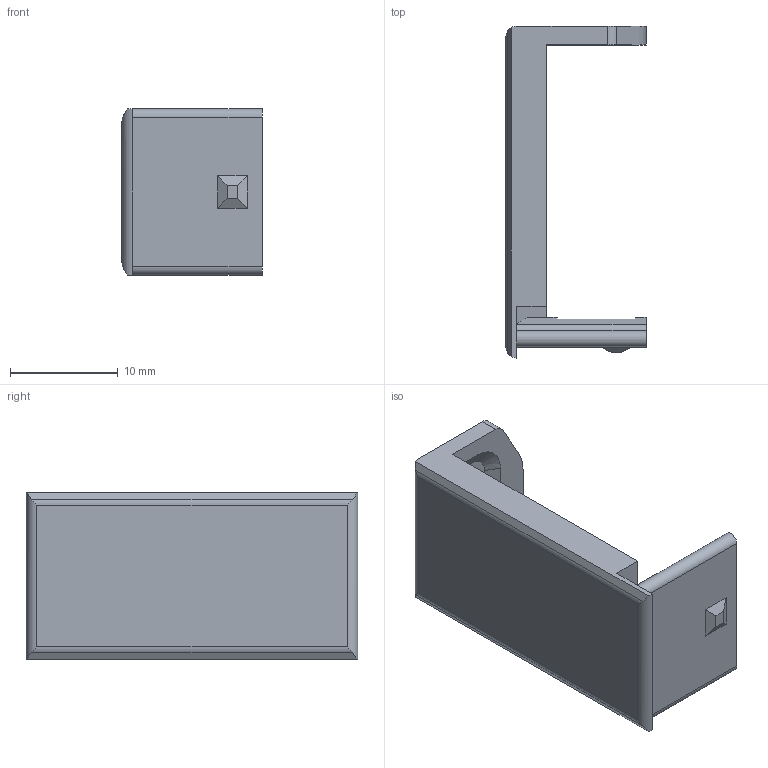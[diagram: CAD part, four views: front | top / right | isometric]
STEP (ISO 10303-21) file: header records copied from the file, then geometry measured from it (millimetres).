
FILE_DESCRIPTION (( 'STEP AP214' ), '1' );
FILE_NAME ('SENSOR16_RIGHT.STEP', '2026-01-26T21:08:35', ( '' ), ( '' ), 'SwSTEP 2.0', 'SolidWorks 2021', '' );
FILE_SCHEMA (( 'AUTOMOTIVE_DESIGN' ));
Length unit declared in the file: millimetre
Products named in the file (1): SENSOR16_RIGHT
Bounding box: 13 x 30.75 x 15.4 mm (x, y, z)
Volume: 1647.9 mm3; surface area: 1962.4 mm2
Topology: 1 solids, 1 shells, 58 faces, 160 edges, 105 vertices
Faces by surface type: plane 43, cylinder 13, cone 2
Entity records: 1865 total; most frequent: CARTESIAN_POINT 348, ORIENTED_EDGE 320, DIRECTION 297, EDGE_CURVE 160, VECTOR 125, LINE 125, VERTEX_POINT 105, AXIS2_PLACEMENT_3D 86
